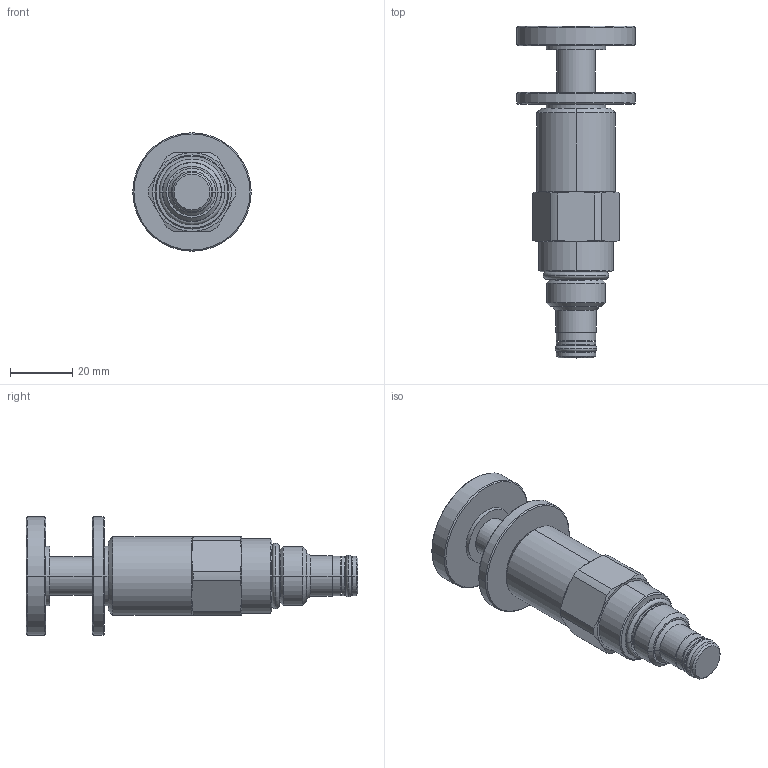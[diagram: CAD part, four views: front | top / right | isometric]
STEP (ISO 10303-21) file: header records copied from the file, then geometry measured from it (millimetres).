
FILE_DESCRIPTION((''),'2;1');
FILE_NAME('PRT0001','2009-03-21T',('JCS'),(''),'PRO/ENGINEER BY PARAMETRIC TECHNOLOGY CORPORATION, 2008510','PRO/ENGINEER BY PARAMETRIC TECHNOLOGY CORPORATION, 2008510','');
FILE_SCHEMA(('CONFIG_CONTROL_DESIGN'));
Length unit declared in the file: inch
Products named in the file (1): PRT0001
Bounding box: 38.1 x 106.82 x 38.1 mm (x, y, z)
Volume: 45631.3 mm3; surface area: 13883.4 mm2
Topology: 4 solids, 4 shells, 176 faces, 402 edges, 241 vertices
Faces by surface type: cone 56, cylinder 54, plane 34, torus 24, revolution 8
Entity records: 5311 total; most frequent: CARTESIAN_POINT 1214, DIRECTION 928, ORIENTED_EDGE 800, EDGE_CURVE 400, AXIS2_PLACEMENT_3D 396, VERTEX_POINT 241, CIRCLE 228, EDGE_LOOP 191
